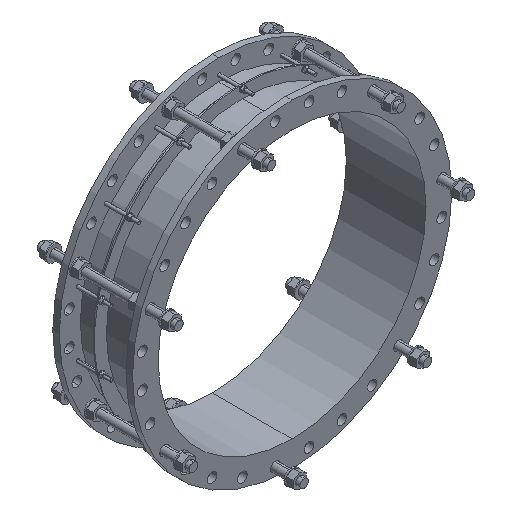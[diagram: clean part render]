
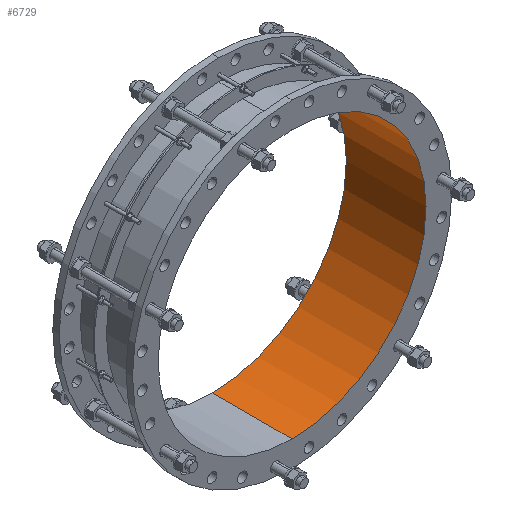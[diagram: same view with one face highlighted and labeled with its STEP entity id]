
A CAD part, isometric view. The second image highlights one B-rep face of the part: STEP entity #6729.
In plain terms, the highlighted cylindrical face has radius 516 mm (diameter 1032 mm), a partial arc.
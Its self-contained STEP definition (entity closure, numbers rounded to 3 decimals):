
#7=DIRECTION('',(0.,-1.,0.));
#8=VECTOR('',#7,307.);
#9=CARTESIAN_POINT('',(0.,0.,-516.));
#10=LINE('',#9,#8);
#11=CARTESIAN_POINT('',(0.,0.,0.));
#12=DIRECTION('',(0.,-1.,0.));
#13=DIRECTION('',(0.,0.,-1.));
#14=AXIS2_PLACEMENT_3D('',#11,#12,#13);
#16=DIRECTION('',(0.,-1.,0.));
#17=VECTOR('',#16,307.);
#18=CARTESIAN_POINT('',(0.,0.,516.));
#19=LINE('',#18,#17);
#2023=CARTESIAN_POINT('',(0.,-307.,0.));
#2024=DIRECTION('',(0.,-1.,0.));
#2025=DIRECTION('',(0.,0.,-1.));
#2026=AXIS2_PLACEMENT_3D('',#2023,#2024,#2025);
#5413=CARTESIAN_POINT('',(0.,0.,-516.));
#5414=CARTESIAN_POINT('',(0.,-307.,-516.));
#5415=VERTEX_POINT('',#5413);
#5416=VERTEX_POINT('',#5414);
#5433=CARTESIAN_POINT('',(0.,0.,516.));
#5434=CARTESIAN_POINT('',(0.,-307.,516.));
#5435=VERTEX_POINT('',#5433);
#5436=VERTEX_POINT('',#5434);
#6716=CARTESIAN_POINT('',(0.,-322.35,0.));
#6717=DIRECTION('',(0.,1.,0.));
#6718=DIRECTION('',(0.,0.,-1.));
#6719=AXIS2_PLACEMENT_3D('',#6716,#6717,#6718);
#6720=CYLINDRICAL_SURFACE('',#6719,516.);
#6721=ORIENTED_EDGE('',*,*,#6705,.F.);
#6723=ORIENTED_EDGE('',*,*,#6722,.T.);
#6724=ORIENTED_EDGE('',*,*,#6709,.T.);
#6726=ORIENTED_EDGE('',*,*,#6725,.F.);
#6727=EDGE_LOOP('',(#6721,#6723,#6724,#6726));
#6728=FACE_OUTER_BOUND('',#6727,.F.);
#6729=ADVANCED_FACE('',(#6728),#6720,.F.);
#15=CIRCLE('',#14,516.);
#2027=CIRCLE('',#2026,516.);
#6705=EDGE_CURVE('',#5415,#5416,#10,.T.);
#6709=EDGE_CURVE('',#5435,#5436,#19,.T.);
#6722=EDGE_CURVE('',#5415,#5435,#15,.T.);
#6725=EDGE_CURVE('',#5416,#5436,#2027,.T.);
